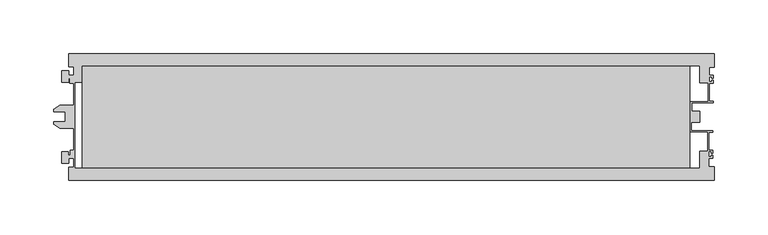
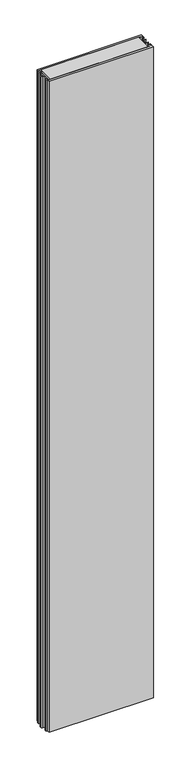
"""IFC4 building model written with IfcOpenShell, lengths in millimetres: plate geometry, Walls_External-Walls_Danpal_Danpatherm-K12 : Walls_External-Walls_Danpal_Danpatherm-K12."""

from ifc_helpers import new_model, si_unit, frame, origin, place, context, project, spatial, polyline, outline, extrude, source, transform, mapped, element, save


def plate_43dbd124(model_context):
    return source(origin(), model_context, "Body", "SweptSolid", [
        extrude(outline(polyline([(272.2066992, -11.5), (272.2066992, -105.9), (-292.2724113, -105.9), (-292.2724113, -11.5), (272.2066992, -11.5)])), frame((0.0, 0.0, -29.0), z_axis=(0.0, 0.0, 1.0), x_axis=(1.0, 0.0, 0.0)), (0.0, 0.0, 1.0), 3952.2118076),
        extrude(outline(polyline([(-304.9117751, 0.0), (295.0882249, 0.0), (295.0882249, -12.326688), (290.5533485, -12.3834733), (290.5534378, -19.8250352), (294.1534643, -19.8250352), (294.1534643, -22.6250436), (292.8534535, -22.6250436), (292.8534535, -21.1250724), (290.4535098, -21.1250724), (290.4535098, -26.1250508), (292.8534955, -26.1250508), (292.8534955, -24.6250436), (294.1535219, -24.6250436), (294.1535219, -27.4250712), (290.553529, -27.4250712), (290.5537305, -44.2251011), (294.153727, -44.2251011), (294.153727, -45.5250406), (274.4537153, -45.5250406), (274.4537153, -53.3499188), (281.5882097, -53.3499188), (281.5882097, -63.5500812), (273.8882097, -63.5500812), (273.8882097, -71.3749594), (293.5882214, -71.3749594), (293.5882214, -72.6749349), (289.9882249, -72.6749349), (289.9882249, -89.4749648), (293.5882214, -89.4749648), (293.5882214, -92.2749648), (292.2882214, -92.2749648), (292.2882214, -90.7749648), (289.8882249, -90.7749648), (289.8882249, -95.7749648), (292.2882214, -95.7749648), (292.2882214, -94.2749648), (293.5882214, -94.2749648), (293.5882214, -97.0749648), (289.9882249, -97.0749648), (289.9882249, -104.9), (295.0882249, -104.9), (295.0882249, -117.4), (-304.9117751, -117.4), (-304.9117751, -105.4), (-299.8117751, -105.4), (-299.8117751, -97.0749648), (-304.8644067, -97.0749648), (-304.8644067, -101.6302279), (-311.3117751, -101.6302279), (-311.3117751, -91.0381227), (-304.9245306, -91.0381227), (-304.9245306, -94.0775963), (-303.4117717, -94.0775963), (-303.4117717, -89.4749648), (-299.8117751, -89.4749648), (-299.8117751, -69.2982521), (-313.1832679, -69.2982521), (-318.5717803, -65.3713202), (-318.5717803, -63.1232521), (-307.738447, -63.1232521), (-307.738447, -53.8499188), (-318.5717803, -53.8499188), (-318.5717803, -51.6018507), (-313.1832679, -47.6749188), (-300.1117751, -47.6749188), (-300.1117751, -27.4235008), (-303.8191181, -27.4235008), (-303.8191181, -22.8208692), (-304.9117751, -22.8208692), (-304.9117751, -26.3618773), (-311.2990196, -26.3618773), (-311.2990196, -15.7697721), (-304.8516512, -15.7697721), (-304.8516512, -19.8235008), (-300.2191216, -19.8235008), (-300.2191216, -12.0), (-304.9117751, -12.0), (-304.9117751, 0.0)]), holes=[polyline([(281.2882097, -11.5), (-292.2724113, -11.5), (-292.2724113, -27.0), (-298.8569924, -27.0), (-298.8569924, -105.9), (281.0766508, -105.9), (281.1394443, -89.9), (288.5882249, -89.9), (288.5882249, -72.9749349), (272.2066992, -72.9749349), (272.2066992, -44.143617), (289.1537295, -44.143617), (289.1537295, -27.4021751), (281.2569049, -27.5010583), (281.2882097, -11.5)])]), frame((0.0, 0.0, -29.0), z_axis=(0.0, 0.0, 1.0), x_axis=(1.0, 0.0, 0.0)), (0.0, 0.0, 1.0), 3952.2118076),
    ])


if __name__ == "__main__":
    model = new_model("IFC4")
    model_context = context("Model", 3, world=origin())
    ifc_project = project(units=[si_unit("LENGTHUNIT", "METRE", prefix="MILLI")], contexts=[model_context])
    site = spatial("IfcSite", under=ifc_project)
    building = spatial("IfcBuilding", under=site)
    placement = place(None, origin())
    plate_shape = plate_43dbd124(model_context)
    element("IfcPlate", 1, ObjectType="Walls_External-Walls_Danpal_Danpatherm-K12 : Walls_External-Walls_Danpal_Danpatherm-K12", at=placement, inside=building, context=model_context, shape_type="MappedRepresentation", body=[
        mapped(plate_shape, transform((0.0, 0.0, 0.0), x_axis=(1.0, 0.0, 0.0), y_axis=(0.0, 1.0, 0.0), z_axis=(0.0, 0.0, 1.0))),
    ])
    save(model, "model.ifc")
